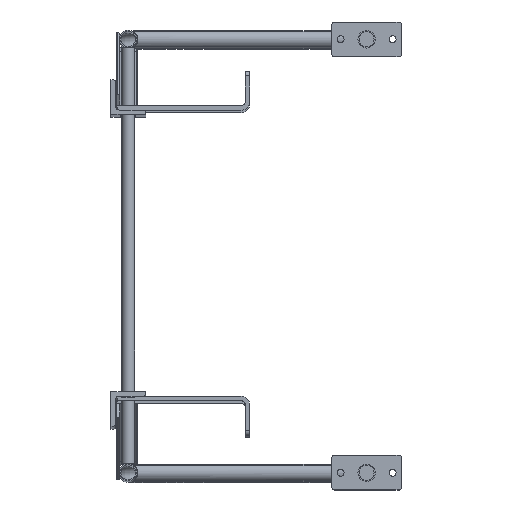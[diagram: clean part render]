
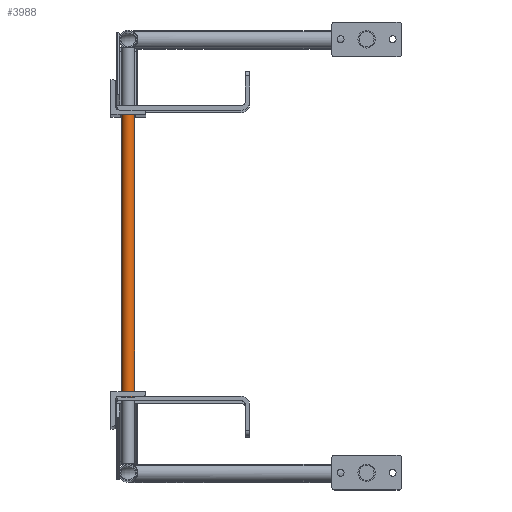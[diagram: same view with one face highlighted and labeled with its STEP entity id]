
A CAD part, top view. The second image highlights one B-rep face of the part: STEP entity #3988.
In plain terms, the highlighted cylindrical face has radius 9.525 mm (diameter 19.05 mm), a full revolution.
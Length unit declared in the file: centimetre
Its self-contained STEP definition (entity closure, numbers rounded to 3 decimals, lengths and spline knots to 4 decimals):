
#727=FACE_BOUND('',#1110,.T.);
#866=FACE_OUTER_BOUND('',#1109,.T.);
#1109=EDGE_LOOP('',(#2659));
#1110=EDGE_LOOP('',(#2660));
#1463=CIRCLE('',#4266,0.9525);
#1464=CIRCLE('',#4267,0.9525);
#1705=VERTEX_POINT('',#6200);
#1706=VERTEX_POINT('',#6202);
#2093=EDGE_CURVE('',#1705,#1705,#1463,.T.);
#2094=EDGE_CURVE('',#1706,#1706,#1464,.T.);
#2659=ORIENTED_EDGE('',*,*,#2093,.T.);
#2660=ORIENTED_EDGE('',*,*,#2094,.F.);
#3623=CYLINDRICAL_SURFACE('',#4265,0.9525);
#3988=ADVANCED_FACE('',(#866,#727),#3623,.T.);
#4265=AXIS2_PLACEMENT_3D('',#6199,#4794,#4795);
#4266=AXIS2_PLACEMENT_3D('',#6201,#4796,#4797);
#4267=AXIS2_PLACEMENT_3D('',#6203,#4798,#4799);
#4794=DIRECTION('center_axis',(0.,-1.,0.));
#4795=DIRECTION('ref_axis',(1.,0.,0.));
#4796=DIRECTION('center_axis',(0.,1.,0.));
#4797=DIRECTION('ref_axis',(1.,0.,0.));
#4798=DIRECTION('center_axis',(0.,1.,0.));
#4799=DIRECTION('ref_axis',(1.,0.,0.));
#6199=CARTESIAN_POINT('Origin',(2.54,0.4762,247.65));
#6200=CARTESIAN_POINT('',(1.5875,-41.4338,247.65));
#6201=CARTESIAN_POINT('Origin',(2.54,-41.4338,247.65));
#6202=CARTESIAN_POINT('',(1.5875,0.4762,247.65));
#6203=CARTESIAN_POINT('Origin',(2.54,0.4762,247.65));
